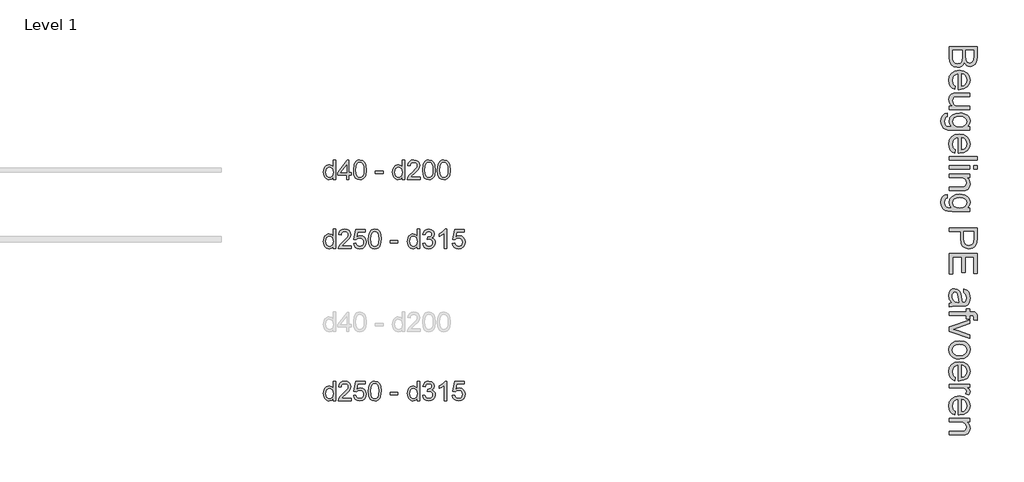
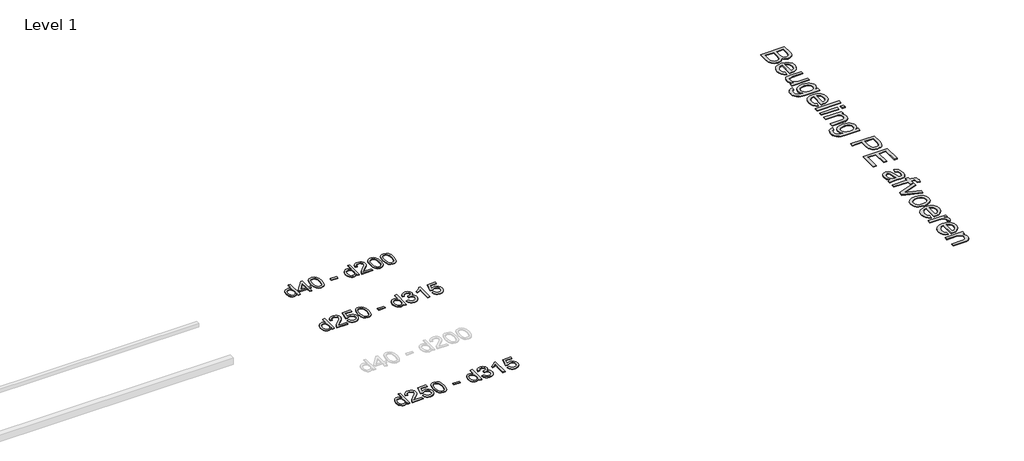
# One storey, part 5 of 5: 4 proxies.
"""IFC4 building model written with IfcOpenShell, lengths in millimetres."""

from ifc_helpers import new_model, si_unit, origin, origin_with_axes, place, context, project, spatial, polyline, outline, extrude, element, save

model = new_model("IFC4")

# Units and contexts
model_context = context("Model", 3, world=origin())
ifc_project = project(units=[si_unit("LENGTHUNIT", "METRE", prefix="MILLI")], contexts=[model_context])

# Site, building, storey
site = spatial("IfcSite", under=ifc_project)
building = spatial("IfcBuilding", under=site)
storey = spatial("IfcBuildingStorey", under=building, Name="Level 1", Elevation=0.0)

# Proxies
placement = place(None, origin())
element("IfcBuildingElementProxy", 1, Name="medium", ObjectType="medium", at=placement, inside=storey, context=model_context, shape_type="SweptSolid", body=[
    extrude(outline(polyline([(10569.1197638, 22888.4870681), (10770.0323841, 22888.4870681), (10770.0323841, 22811.8204603), (10768.5547248, 22790.7346906), (10764.1217467, 22774.2719713), (10756.6230854, 22761.6536189), (10745.9483762, 22752.1009497), (10733.3913374, 22746.0860791), (10720.2456875, 22744.0811222), (10708.1485012, 22745.767248), (10696.7748162, 22750.8256255), (10686.8236082, 22759.2930427), (10678.9938531, 22771.206288), (10671.5626368, 22756.9753862), (10660.2563968, 22746.4600925), (10645.8231598, 22739.9669753), (10629.0109527, 22737.8026029), (10602.0084142, 22743.7132402), (10582.7804486, 22758.3549436), (10572.5778546, 22780.2071342), (10569.1197638, 22812.4090715), (10569.1197638, 22888.4870681)]), holes=[polyline([(10594.2338414, 22863.3729905), (10594.2338414, 22811.8695112), (10595.21486, 22793.2301568), (10600.684039, 22777.4602819), (10611.8431262, 22767.0124333), (10628.765698, 22762.9166804), (10648.2879692, 22767.7236718), (10655.3451721, 22774.0205853), (10659.9375657, 22783.2973429), (10663.2975546, 22814.3220578), (10663.2975546, 22863.3729905), (10594.2338414, 22863.3729905)]), polyline([(10688.4116321, 22863.3729905), (10688.4116321, 22817.5103685), (10690.5698732, 22790.7285592), (10699.8650249, 22774.6153278), (10716.223511, 22769.1951998), (10732.6065225, 22774.2474458), (10742.2940817, 22788.717471), (10744.9183066, 22820.9929847), (10744.9183066, 22863.3729905), (10688.4116321, 22863.3729905)])]), origin_with_axes(), (0.0, 0.0, 1.0), 5.0),
    extrude(outline(polyline([(10613.0693995, 22603.1087417), (10609.9301398, 22578.4851735), (10591.3766245, 22587.3572609), (10577.5074733, 22601.5145864), (10568.8622464, 22620.6383188), (10565.9805041, 22644.409627), (10570.9530424, 22673.8769748), (10585.8706574, 22696.5507685), (10609.7645929, 22711.0085309), (10641.6660933, 22715.827785), (10674.6405828, 22710.9594799), (10699.3009392, 22696.3545647), (10714.6784066, 22673.9873394), (10719.8042291, 22645.8321041), (10714.6906693, 22618.5536541), (10699.3499901, 22596.7566459), (10674.7386847, 22582.4644304), (10641.8132461, 22577.7003586), (10635.0442174, 22577.8475113), (10635.0442174, 22690.7137075), (10616.2454474, 22686.3665686), (10602.4253471, 22676.2682078), (10593.927273, 22661.6939494), (10591.0945817, 22643.9191177), (10596.3430315, 22619.2955495), (10603.1488484, 22610.1475505), (10613.0693995, 22603.1087417)]), holes=[polyline([(10660.1582949, 22690.7137075), (10660.1582949, 22602.8144361), (10673.4265722, 22606.2112132), (10682.9179277, 22612.8698773), (10691.7470956, 22627.5115807), (10694.6901515, 22645.9302059), (10692.3418381, 22662.8589091), (10685.2968979, 22676.856819), (10674.3156204, 22686.5872978), (10660.1582949, 22690.7137075)])]), origin_with_axes(), (0.0, 0.0, 1.0), 5.0),
    extrude(outline(polyline([(10569.1197638, 22458.4084902), (10594.479096, 22458.4084902), (10582.0109621, 22467.4951755), (10573.1051521, 22478.0779143), (10567.7616661, 22490.1567064), (10565.9805041, 22503.7315521), (10570.9836993, 22527.3495761), (10583.540738, 22543.6344858), (10602.0329397, 22551.114753), (10625.3811836, 22552.586281), (10716.6649694, 22552.586281), (10716.6649694, 22527.4722035), (10637.2024584, 22527.4722035), (10611.5978715, 22525.9516246), (10603.0568779, 22522.2911987), (10596.5637607, 22516.0188107), (10591.0945817, 22497.3058799), (10596.686388, 22476.3366061), (10603.2898698, 22467.9795535), (10611.9167026, 22462.4797177), (10639.9002597, 22458.4084902), (10716.6649694, 22458.4084902), (10716.6649694, 22433.2944127), (10569.1197638, 22433.2944127), (10569.1197638, 22458.4084902)])), origin_with_axes(), (0.0, 0.0, 1.0), 5.0),
    extrude(outline(polyline([(10556.5627251, 22405.0410755), (10553.4234654, 22379.9269979), (10545.5753161, 22377.1556202), (10540.1797136, 22371.7845431), (10535.9858588, 22361.2263299), (10534.5879072, 22347.4062296), (10536.1697998, 22332.6664243), (10540.9154775, 22321.7035408), (10548.5183721, 22314.1006463), (10558.6719152, 22309.4408077), (10587.955322, 22307.724025), (10573.8286534, 22325.4068863), (10569.1197638, 22346.9647712), (10574.6012056, 22372.8575323), (10591.0455308, 22392.1652057), (10615.1540642, 22404.1765528), (10643.6281306, 22408.1803352), (10663.9045599, 22406.3838448), (10682.5500457, 22400.9943735), (10698.3505774, 22392.2019939), (10710.0921444, 22380.1967781), (10717.3762079, 22365.3895278), (10719.8042291, 22348.1910445), (10714.3105246, 22325.787031), (10697.8294112, 22307.724025), (10716.6649694, 22307.724025), (10716.6649694, 22282.6099475), (10589.2796972, 22282.6099475), (10559.8675317, 22284.3267301), (10540.4985446, 22289.4770781), (10527.6533316, 22298.3491655), (10517.8124882, 22311.2311667), (10511.5584943, 22327.8410388), (10509.4738297, 22347.8967389), (10512.4107543, 22371.263377), (10521.2215281, 22389.6636081), (10535.9306765, 22401.4664888), (10556.5627251, 22405.0410755)]), holes=[polyline([(10645.3449132, 22383.0662576), (10622.309369, 22380.3868504), (10606.4720491, 22372.3486288), (10597.2933933, 22360.2637053), (10594.2338414, 22345.4441923), (10597.2749992, 22330.7350438), (10606.3984727, 22318.5888066), (10622.0334575, 22310.4402204), (10644.6091492, 22307.724025), (10666.381632, 22310.5199282), (10682.0595364, 22318.9076377), (10691.5324977, 22331.2316845), (10694.6901515, 22345.8365997), (10691.5815487, 22360.1778662), (10682.2557401, 22372.201476), (10666.8108277, 22380.3500622), (10645.3449132, 22383.0662576)])]), origin_with_axes(), (0.0, 0.0, 1.0), 5.0),
    extrude(outline(polyline([(10613.0693995, 22141.6375669), (10609.9301398, 22117.0139987), (10591.3766245, 22125.8860862), (10577.5074733, 22140.0434116), (10568.8622464, 22159.167144), (10565.9805041, 22182.9384523), (10570.9530424, 22212.4058001), (10585.8706574, 22235.0795937), (10609.7645929, 22249.5373561), (10641.6660933, 22254.3566103), (10674.6405828, 22249.4883052), (10699.3009392, 22234.88339), (10714.6784066, 22212.5161647), (10719.8042291, 22184.3609293), (10714.6906693, 22157.0824794), (10699.3499901, 22135.2854712), (10674.7386847, 22120.9932556), (10641.8132461, 22116.2291838), (10635.0442174, 22116.3763366), (10635.0442174, 22229.2425327), (10616.2454474, 22224.8953938), (10602.4253471, 22214.797033), (10593.927273, 22200.2227747), (10591.0945817, 22182.4479429), (10596.3430315, 22157.8243747), (10603.1488484, 22148.6763758), (10613.0693995, 22141.6375669)]), holes=[polyline([(10660.1582949, 22229.2425327), (10660.1582949, 22141.3432613), (10673.4265722, 22144.7400384), (10682.9179277, 22151.3987025), (10691.7470956, 22166.0404059), (10694.6901515, 22184.4590312), (10692.3418381, 22201.3877343), (10685.2968979, 22215.3856442), (10674.3156204, 22225.116123), (10660.1582949, 22229.2425327)])]), origin_with_axes(), (0.0, 0.0, 1.0), 5.0),
    extrude(outline(polyline([(10569.1197638, 22091.1151063), (10770.0323841, 22091.1151063), (10770.0323841, 22066.0010287), (10569.1197638, 22066.0010287), (10569.1197638, 22091.1151063)])), origin_with_axes(), (0.0, 0.0, 1.0), 5.0),
    extrude(outline(polyline([(10569.1197638, 22028.3299124), (10716.6649694, 22028.3299124), (10716.6649694, 22003.2158349), (10569.1197638, 22003.2158349), (10569.1197638, 22028.3299124)])), origin_with_axes(), (0.0, 0.0, 1.0), 5.0),
    extrude(outline(polyline([(10744.9183066, 22028.3299124), (10770.0323841, 22028.3299124), (10770.0323841, 22003.2158349), (10744.9183066, 22003.2158349), (10744.9183066, 22028.3299124)])), origin_with_axes(), (0.0, 0.0, 1.0), 5.0),
    extrude(outline(polyline([(10569.1197638, 21965.5447186), (10716.6649694, 21965.5447186), (10716.6649694, 21940.430641), (10696.0635776, 21940.430641), (10706.4501126, 21931.7057064), (10713.8690662, 21921.2272009), (10718.3204383, 21908.9951246), (10719.8042291, 21895.0094774), (10715.0217631, 21871.2933514), (10702.4647244, 21855.1065436), (10683.9970482, 21847.5772255), (10659.7168365, 21846.2528503), (10569.1197638, 21846.2528503), (10569.1197638, 21871.3669278), (10656.3323222, 21871.3669278), (10678.5523947, 21874.2609328), (10690.300093, 21884.4880523), (10694.6901515, 21901.7294551), (10692.2253422, 21916.4386036), (10684.8309141, 21928.9772483), (10670.5448299, 21937.5672928), (10647.4050524, 21940.430641), (10569.1197638, 21940.430641), (10569.1197638, 21965.5447186)])), origin_with_axes(), (0.0, 0.0, 1.0), 5.0),
    extrude(outline(polyline([(10556.5627251, 21817.999513), (10553.4234654, 21792.8854355), (10545.5753161, 21790.1140578), (10540.1797136, 21784.7429807), (10535.9858588, 21774.1847674), (10534.5879072, 21760.3646671), (10536.1697998, 21745.6248619), (10540.9154775, 21734.6619784), (10548.5183721, 21727.0590838), (10558.6719152, 21722.3992452), (10587.955322, 21720.6824626), (10573.8286534, 21738.3653238), (10569.1197638, 21759.9232087), (10574.6012056, 21785.8159698), (10591.0455308, 21805.1236432), (10615.1540642, 21817.1349904), (10643.6281306, 21821.1387727), (10663.9045599, 21819.3422823), (10682.5500457, 21813.9528111), (10698.3505774, 21805.1604314), (10710.0921444, 21793.1552156), (10717.3762079, 21778.3479653), (10719.8042291, 21761.1494821), (10714.3105246, 21738.7454686), (10697.8294112, 21720.6824626), (10716.6649694, 21720.6824626), (10716.6649694, 21695.5683851), (10589.2796972, 21695.5683851), (10559.8675317, 21697.2851677), (10540.4985446, 21702.4355156), (10527.6533316, 21711.3076031), (10517.8124882, 21724.1896043), (10511.5584943, 21740.7994764), (10509.4738297, 21760.8551765), (10512.4107543, 21784.2218145), (10521.2215281, 21802.6220456), (10535.9306765, 21814.4249263), (10556.5627251, 21817.999513)]), holes=[polyline([(10645.3449132, 21796.0246952), (10622.309369, 21793.345288), (10606.4720491, 21785.3070664), (10597.2933933, 21773.2221429), (10594.2338414, 21758.4026298), (10597.2749992, 21743.6934814), (10606.3984727, 21731.5472442), (10622.0334575, 21723.398658), (10644.6091492, 21720.6824626), (10666.381632, 21723.4783658), (10682.0595364, 21731.8660752), (10691.5324977, 21744.1901221), (10694.6901515, 21758.7950373), (10691.5815487, 21773.1363037), (10682.2557401, 21785.1599136), (10666.8108277, 21793.3084998), (10645.3449132, 21796.0246952)])]), origin_with_axes(), (0.0, 0.0, 1.0), 5.0),
    extrude(outline(polyline([(10569.1197638, 21576.2765167), (10770.0323841, 21576.2765167), (10770.0323841, 21501.8172009), (10768.1193978, 21471.7980301), (10758.7261442, 21447.3951911), (10750.3997483, 21438.5231037), (10739.3019748, 21431.5762653), (10726.2115071, 21427.088105), (10711.9070289, 21425.5920515), (10688.2276911, 21429.6326221), (10668.4969535, 21441.7543338), (10660.728512, 21451.46182), (10655.1796252, 21464.4219961), (10650.7405158, 21500.1004183), (10650.7405158, 21551.1624392), (10569.1197638, 21551.1624392), (10569.1197638, 21576.2765167)]), holes=[polyline([(10675.8545934, 21551.1624392), (10675.8545934, 21498.6288903), (10678.1599872, 21476.3597669), (10685.0761687, 21461.6444871), (10696.1739422, 21453.4407186), (10711.0241121, 21450.7061291), (10722.3058266, 21452.3186785), (10731.8217076, 21457.1563267), (10738.9831437, 21464.6181998), (10743.201524, 21474.103424), (10744.9183066, 21499.2175015), (10744.9183066, 21551.1624392), (10675.8545934, 21551.1624392)])]), origin_with_axes(), (0.0, 0.0, 1.0), 5.0),
    extrude(outline(polyline([(10569.1197638, 21391.0601949), (10770.0323841, 21391.0601949), (10770.0323841, 21246.6542491), (10744.9183066, 21246.6542491), (10744.9183066, 21365.9461174), (10685.2723724, 21365.9461174), (10685.2723724, 21252.9327685), (10660.1582949, 21252.9327685), (10660.1582949, 21365.9461174), (10594.2338414, 21365.9461174), (10594.2338414, 21243.5149894), (10569.1197638, 21243.5149894), (10569.1197638, 21391.0601949)])), origin_with_axes(), (0.0, 0.0, 1.0), 5.0),
    extrude(outline(polyline([(10587.955322, 21036.3238497), (10570.9346483, 21060.6776378), (10565.9805041, 21087.5820744), (10568.9603483, 21108.5697422), (10577.8998808, 21124.0514428), (10591.4747264, 21133.5979806), (10608.36051, 21136.7801598), (10628.2261377, 21131.9731684), (10642.6471119, 21119.3425533), (10650.8876686, 21101.7577939), (10654.6645904, 21080.0282307), (10663.2975546, 21036.4710025), (10668.8893609, 21036.3238497), (10680.097499, 21038.0528951), (10687.4306135, 21043.2400312), (10692.875267, 21054.8405768), (10694.6901515, 21071.0028591), (10693.4822723, 21085.9633936), (10689.8586347, 21096.4112422), (10683.157051, 21103.5358902), (10672.7153337, 21108.5268226), (10675.8545934, 21133.6409002), (10700.3800597, 21122.7761186), (10708.6328791, 21113.517755), (10714.751983, 21100.8994026), (10719.8042291, 21067.7654975), (10715.3405942, 21037.3293938), (10704.1324561, 21020.1370419), (10687.087257, 21012.4360455), (10665.1124391, 21011.2097722), (10633.866995, 21011.2097722), (10590.2361904, 21009.9344479), (10569.1197638, 21004.9312528), (10569.1197638, 21030.0453303), (10587.955322, 21036.3238497)]), holes=[polyline([(10638.1834771, 21036.3238497), (10630.4824806, 21076.8399201), (10626.4112532, 21098.4468559), (10619.7893773, 21108.232517), (10610.1263436, 21111.6660823), (10602.6583391, 21109.7960155), (10596.5392352, 21104.1858151), (10592.4557451, 21094.9581084), (10591.0945817, 21082.2355227), (10592.5967665, 21068.7465162), (10597.1033209, 21056.8271396), (10611.6469225, 21040.444128), (10631.0710918, 21036.4710025), (10638.1834771, 21036.3238497)])]), origin_with_axes(), (0.0, 0.0, 1.0), 5.0),
    extrude(outline(polyline([(10569.1197638, 20858.8575752), (10716.6649694, 20910.753462), (10716.6649694, 20884.1678565), (10628.2751887, 20852.7262086), (10598.5503235, 20843.2593786), (10626.607457, 20833.9887523), (10716.6649694, 20802.3509008), (10716.6649694, 20775.7652952), (10569.1197638, 20827.0235199), (10569.1197638, 20858.8575752)])), origin_with_axes(), (0.0, 0.0, 1.0), 5.0),
    extrude(outline(polyline([(10569.1197638, 20970.3993962), (10691.5508918, 20970.3993962), (10691.5508918, 20992.374214), (10716.6649694, 20992.374214), (10716.6649694, 20970.3993962), (10731.527402, 20970.3993962), (10752.4721502, 20967.7506458), (10760.8230715, 20962.6983997), (10767.4326847, 20954.8993014), (10771.736904, 20943.9854689), (10773.1716438, 20929.5890202), (10770.4247916, 20906.6822346), (10746.8803439, 20910.3610545), (10748.0575663, 20924.8310797), (10743.888237, 20940.6500055), (10737.916286, 20944.1264903), (10728.3390914, 20945.2853186), (10716.6649694, 20945.2853186), (10716.6649694, 20917.0319814), (10691.5508918, 20917.0319814), (10691.5508918, 20945.2853186), (10569.1197638, 20945.2853186), (10569.1197638, 20970.3993962)])), origin_with_axes(), (0.0, 0.0, 1.0), 5.0),
    extrude(outline(polyline([(10642.8923666, 20760.0689968), (10678.4665555, 20754.636606), (10692.2897215, 20747.8461175), (10703.4702685, 20738.3394336), (10715.7207389, 20718.2040257), (10719.8042291, 20694.0954923), (10714.8316908, 20667.7122219), (10699.9140759, 20646.6387149), (10676.2286067, 20632.824746), (10644.9525058, 20628.2200897), (10619.5809108, 20630.2557034), (10600.2671061, 20636.3625445), (10585.8032123, 20646.3628034), (10574.9813503, 20660.0786705), (10568.2307157, 20676.3697115), (10565.9805041, 20694.0954923), (10570.9346483, 20720.7975938), (10585.797081, 20741.8465753), (10609.9791908, 20755.5133914), (10642.8923666, 20760.0689968)]), holes=[polyline([(10642.9414175, 20734.9549192), (10620.2124416, 20732.0486515), (10604.0195024, 20723.3298482), (10594.3258119, 20710.2087237), (10591.0945817, 20694.0954923), (10594.344206, 20678.0558373), (10604.0930788, 20664.9592383), (10620.5006158, 20656.240435), (10643.7262325, 20653.3341672), (10665.7930208, 20656.2588291), (10681.7652308, 20665.0328147), (10691.4589213, 20678.1478078), (10694.6901515, 20694.0954923), (10691.4711841, 20710.2087237), (10681.8142817, 20723.3298482), (10665.6581307, 20732.0486515), (10642.9414175, 20734.9549192)])]), origin_with_axes(), (0.0, 0.0, 1.0), 5.0),
    extrude(outline(polyline([(10613.0693995, 20496.6654882), (10609.9301398, 20472.04192), (10591.3766245, 20480.9140075), (10577.5074733, 20495.0713329), (10568.8622464, 20514.1950653), (10565.9805041, 20537.9663736), (10570.9530424, 20567.4337214), (10585.8706574, 20590.107515), (10609.7645929, 20604.5652774), (10641.6660933, 20609.3845316), (10674.6405828, 20604.5162265), (10699.3009392, 20589.9113113), (10714.6784066, 20567.544086), (10719.8042291, 20539.3888506), (10714.6906693, 20512.1104007), (10699.3499901, 20490.3133925), (10674.7386847, 20476.0211769), (10641.8132461, 20471.2571051), (10635.0442174, 20471.4042579), (10635.0442174, 20584.270454), (10616.2454474, 20579.9233151), (10602.4253471, 20569.8249543), (10593.927273, 20555.250696), (10591.0945817, 20537.4758642), (10596.3430315, 20512.852296), (10603.1488484, 20503.7042971), (10613.0693995, 20496.6654882)]), holes=[polyline([(10660.1582949, 20584.270454), (10660.1582949, 20496.3711826), (10673.4265722, 20499.7679597), (10682.9179277, 20506.4266238), (10691.7470956, 20521.0683272), (10694.6901515, 20539.4869525), (10692.3418381, 20556.4156556), (10685.2968979, 20570.4135655), (10674.3156204, 20580.1440443), (10660.1582949, 20584.270454)])]), origin_with_axes(), (0.0, 0.0, 1.0), 5.0),
    extrude(outline(polyline([(10569.1197638, 20446.1430276), (10716.6649694, 20446.1430276), (10716.6649694, 20424.1682097), (10694.8373043, 20424.1682097), (10714.9481867, 20408.5700131), (10719.8042291, 20392.8737147), (10717.8667172, 20380.3657268), (10712.0541817, 20367.6615353), (10689.5398036, 20376.0492448), (10694.6901515, 20393.7075805), (10689.7360073, 20407.9078255), (10676.0017462, 20416.9577226), (10646.6692884, 20421.02895), (10569.1197638, 20421.02895), (10569.1197638, 20446.1430276)])), origin_with_axes(), (0.0, 0.0, 1.0), 5.0),
    extrude(outline(polyline([(10613.0693995, 20248.6639726), (10609.9301398, 20224.0404043), (10591.3766245, 20232.9124918), (10577.5074733, 20247.0698172), (10568.8622464, 20266.1935496), (10565.9805041, 20289.9648579), (10570.9530424, 20319.4322057), (10585.8706574, 20342.1059993), (10609.7645929, 20356.5637617), (10641.6660933, 20361.3830159), (10674.6405828, 20356.5147108), (10699.3009392, 20341.9097956), (10714.6784066, 20319.5425703), (10719.8042291, 20291.3873349), (10714.6906693, 20264.108885), (10699.3499901, 20242.3118768), (10674.7386847, 20228.0196613), (10641.8132461, 20223.2555894), (10635.0442174, 20223.4027422), (10635.0442174, 20336.2689383), (10616.2454474, 20331.9217994), (10602.4253471, 20321.8234387), (10593.927273, 20307.2491803), (10591.0945817, 20289.4743486), (10596.3430315, 20264.8507803), (10603.1488484, 20255.7027814), (10613.0693995, 20248.6639726)]), holes=[polyline([(10660.1582949, 20336.2689383), (10660.1582949, 20248.369667), (10673.4265722, 20251.766444), (10682.9179277, 20258.4251082), (10691.7470956, 20273.0668116), (10694.6901515, 20291.4854368), (10692.3418381, 20308.4141399), (10685.2968979, 20322.4120499), (10674.3156204, 20332.1425286), (10660.1582949, 20336.2689383)])]), origin_with_axes(), (0.0, 0.0, 1.0), 5.0),
    extrude(outline(polyline([(10569.1197638, 20198.1415119), (10716.6649694, 20198.1415119), (10716.6649694, 20173.0274343), (10696.0635776, 20173.0274343), (10706.4501126, 20164.3024997), (10713.8690662, 20153.8239942), (10718.3204383, 20141.5919179), (10719.8042291, 20127.6062707), (10715.0217631, 20103.8901447), (10702.4647244, 20087.7033369), (10683.9970482, 20080.1740188), (10659.7168365, 20078.8496436), (10569.1197638, 20078.8496436), (10569.1197638, 20103.9637211), (10656.3323222, 20103.9637211), (10678.5523947, 20106.8577261), (10690.300093, 20117.0848456), (10694.6901515, 20134.3262485), (10692.2253422, 20149.0353969), (10684.8309141, 20161.5740416), (10670.5448299, 20170.1640861), (10647.4050524, 20173.0274343), (10569.1197638, 20173.0274343), (10569.1197638, 20198.1415119)])), origin_with_axes(), (0.0, 0.0, 1.0), 5.0),
])
element("IfcBuildingElementProxy", 2, Name="small", ObjectType="small", at=placement, inside=storey, context=model_context, shape_type="SweptSolid", body=[
    extrude(outline(polyline([(6118.2796977, 21927.2930681), (6118.2796977, 21943.8771884), (6106.6484953, 21929.7909868), (6090.5708258, 21925.0955863), (6079.2057247, 21926.7952011), (6068.8020219, 21931.8940456), (6059.9949269, 21940.0358873), (6053.4196494, 21950.8644938), (6047.9602806, 21978.8308831), (6052.9904538, 22006.8144402), (6059.2738782, 22017.91344), (6068.0638054, 22026.0767414), (6078.6949819, 22031.0983307), (6090.5021545, 22032.7721937), (6106.7085827, 22027.9823702), (6118.2796977, 22015.535696), (6118.2796977, 22067.9319023), (6135.859552, 22067.9319023), (6135.859552, 21927.2930681), (6118.2796977, 21927.2930681)]), holes=[polyline([(6065.5401349, 21978.8995544), (6067.5230188, 21962.9978551), (6073.4716707, 21951.6885495), (6082.1156713, 21944.9287178), (6092.1846015, 21942.6754406), (6102.2492398, 21944.8257108), (6110.6743506, 21951.2765216), (6116.3783609, 21962.1480477), (6118.2796977, 21977.5604639), (6116.3440253, 21994.4106856), (6110.537008, 22006.0933914), (6101.8972993, 22012.9176025), (6091.4635528, 22015.1923395), (6081.2916156, 22013.0077335), (6072.9566359, 22006.4539158), (6067.3942601, 21995.1961136), (6065.5401349, 21978.8995544)])]), origin_with_axes(), (0.0, 0.0, 1.0), 5.0),
    extrude(outline(polyline([(6214.9688962, 21927.2930681), (6214.9688962, 21960.2552949), (6151.2419245, 21960.2552949), (6151.2419245, 21977.8351491), (6219.3638598, 22065.7344205), (6232.5487505, 22065.7344205), (6232.5487505, 21977.8351491), (6250.1286048, 21977.8351491), (6250.1286048, 21960.2552949), (6232.5487505, 21960.2552949), (6232.5487505, 21927.2930681), (6214.9688962, 21927.2930681)]), holes=[polyline([(6214.9688962, 21977.8351491), (6214.9688962, 22032.154152), (6172.8733858, 21977.8351491), (6214.9688962, 21977.8351491)])]), origin_with_axes(), (0.0, 0.0, 1.0), 5.0),
    extrude(outline(polyline([(6265.5109773, 21996.4794086), (6270.678493, 22036.9439756), (6277.0992601, 22050.6138574), (6286.0265299, 22060.2750517), (6297.5246816, 22066.0176896), (6311.6580947, 22067.9319023), (6332.1908152, 22063.3995961), (6346.3714398, 22050.3348802), (6354.6119965, 22029.5274745), (6357.8052122, 21996.4794086), (6352.6891999, 21956.18652), (6346.3070605, 21942.5037623), (6337.3926666, 21932.8039404), (6325.8687631, 21927.0226748), (6311.6580947, 21925.0955863), (6293.3915274, 21928.4433125), (6279.5199236, 21938.4864909), (6269.0132139, 21962.2725145), (6265.5109773, 21996.4794086)]), holes=[polyline([(6283.0908315, 21996.5137443), (6285.1509707, 21968.8606679), (6291.3313882, 21952.8559617), (6300.5333432, 21945.2205708), (6311.6580947, 21942.6754406), (6322.7828463, 21945.2291548), (6331.9848013, 21952.8902973), (6338.1652188, 21968.9035874), (6340.2253579, 21996.5137443), (6338.2338901, 22023.544487), (6332.2594865, 22039.67366), (6323.0746993, 22047.682451), (6311.4520808, 22050.352048), (6300.4475041, 22048.0000558), (6291.6060735, 22040.9440791), (6285.219642, 22023.8105883), (6283.0908315, 21996.5137443)])]), origin_with_axes(), (0.0, 0.0, 1.0), 5.0),
    extrude(outline(polyline([(6423.7296658, 21969.045222), (6423.7296658, 21986.6250763), (6478.6667104, 21986.6250763), (6478.6667104, 21969.045222), (6423.7296658, 21969.045222)])), origin_with_axes(), (0.0, 0.0, 1.0), 5.0),
    extrude(outline(polyline([(6617.1080628, 21927.2930681), (6617.1080628, 21943.8771884), (6605.4768604, 21929.7909868), (6589.3991909, 21925.0955863), (6578.0340898, 21926.7952011), (6567.630387, 21931.8940456), (6558.823292, 21940.0358873), (6552.2480145, 21950.8644938), (6546.7886457, 21978.8308831), (6551.8188188, 22006.8144402), (6558.1022433, 22017.91344), (6566.8921705, 22026.0767414), (6577.523347, 22031.0983307), (6589.3305196, 22032.7721937), (6605.5369478, 22027.9823702), (6617.1080628, 22015.535696), (6617.1080628, 22067.9319023), (6634.6879171, 22067.9319023), (6634.6879171, 21927.2930681), (6617.1080628, 21927.2930681)]), holes=[polyline([(6564.3685, 21978.8995544), (6566.3513839, 21962.9978551), (6572.3000358, 21951.6885495), (6580.9440364, 21944.9287178), (6591.0129666, 21942.6754406), (6601.0776049, 21944.8257108), (6609.5027157, 21951.2765216), (6615.206726, 21962.1480477), (6617.1080628, 21977.5604639), (6615.1723904, 21994.4106856), (6609.3653731, 22006.0933914), (6600.7256644, 22012.9176025), (6590.2919179, 22015.1923395), (6580.1199807, 22013.0077335), (6571.785001, 22006.4539158), (6566.2226252, 21995.1961136), (6564.3685, 21978.8995544)])]), origin_with_axes(), (0.0, 0.0, 1.0), 5.0),
    extrude(outline(polyline([(6746.7594881, 21944.8729224), (6746.7594881, 21927.2930681), (6654.4652531, 21927.2930681), (6656.353714, 21939.4135536), (6667.0321021, 21958.0749809), (6689.0412556, 21978.4531909), (6719.3939727, 22007.7415028), (6725.0851072, 22017.8361847), (6726.982152, 22027.6561815), (6725.1924061, 22036.4589845), (6719.8231684, 22043.7767705), (6711.5697358, 22048.7082286), (6701.1274054, 22050.352048), (6690.1614563, 22048.7468562), (6681.6419224, 22043.9312809), (6676.143926, 22036.2830142), (6674.2425892, 22026.1797484), (6656.6627349, 22028.3772302), (6660.9246478, 22045.3819623), (6670.1394787, 22057.8028847), (6683.8265283, 22065.3996479), (6701.5050976, 22067.9319023), (6719.3124256, 22065.1163788), (6732.9737235, 22056.6698081), (6741.6649356, 22044.0514557), (6744.5620063, 22028.7205867), (6741.4374619, 22012.0506272), (6731.0509269, 21994.8141295), (6705.8657255, 21970.727669), (6685.642026, 21953.8173599), (6677.7104901, 21944.8729224), (6746.7594881, 21944.8729224)])), origin_with_axes(), (0.0, 0.0, 1.0), 5.0),
    extrude(outline(polyline([(6764.3393424, 21996.4794086), (6769.5068581, 22036.9439756), (6775.9276252, 22050.6138574), (6784.854895, 22060.2750517), (6796.3530467, 22066.0176896), (6810.4864598, 22067.9319023), (6831.0191803, 22063.3995961), (6845.1998049, 22050.3348802), (6853.4403616, 22029.5274745), (6856.6335773, 21996.4794086), (6851.517565, 21956.18652), (6845.1354256, 21942.5037623), (6836.2210317, 21932.8039404), (6824.6971282, 21927.0226748), (6810.4864598, 21925.0955863), (6792.2198925, 21928.4433125), (6778.3482887, 21938.4864909), (6767.841579, 21962.2725145), (6764.3393424, 21996.4794086)]), holes=[polyline([(6781.9191966, 21996.5137443), (6783.9793358, 21968.8606679), (6790.1597533, 21952.8559617), (6799.3617083, 21945.2205708), (6810.4864598, 21942.6754406), (6821.6112114, 21945.2291548), (6830.8131663, 21952.8902973), (6836.9935839, 21968.9035874), (6839.053723, 21996.5137443), (6837.0622552, 22023.544487), (6831.0878516, 22039.67366), (6821.9030644, 22047.682451), (6810.2804459, 22050.352048), (6799.2758692, 22048.0000558), (6790.4344386, 22040.9440791), (6784.0480071, 22023.8105883), (6781.9191966, 21996.5137443)])]), origin_with_axes(), (0.0, 0.0, 1.0), 5.0),
    extrude(outline(polyline([(6872.0159498, 21996.4794086), (6877.1834656, 22036.9439756), (6883.6042326, 22050.6138574), (6892.5315024, 22060.2750517), (6904.0296542, 22066.0176896), (6918.1630673, 22067.9319023), (6938.6957877, 22063.3995961), (6952.8764123, 22050.3348802), (6961.116969, 22029.5274745), (6964.3101848, 21996.4794086), (6959.1941725, 21956.18652), (6952.812033, 21942.5037623), (6943.8976391, 21932.8039404), (6932.3737356, 21927.0226748), (6918.1630673, 21925.0955863), (6899.8964999, 21928.4433125), (6886.0248962, 21938.4864909), (6875.5181864, 21962.2725145), (6872.0159498, 21996.4794086)]), holes=[polyline([(6889.5958041, 21996.5137443), (6891.6559433, 21968.8606679), (6897.8363608, 21952.8559617), (6907.0383157, 21945.2205708), (6918.1630673, 21942.6754406), (6929.2878188, 21945.2291548), (6938.4897738, 21952.8902973), (6944.6701913, 21968.9035874), (6946.7303305, 21996.5137443), (6944.7388626, 22023.544487), (6938.764459, 22039.67366), (6929.5796719, 22047.682451), (6917.9570534, 22050.352048), (6906.9524766, 22048.0000558), (6898.111046, 22040.9440791), (6891.7246146, 22023.8105883), (6889.5958041, 21996.5137443)])]), origin_with_axes(), (0.0, 0.0, 1.0), 5.0),
])
element("IfcBuildingElementProxy", 3, Name="small", ObjectType="small", at=placement, inside=storey, context=model_context, shape_type="SweptSolid", body=[
    extrude(outline(polyline([(6118.2796977, 21427.2930681), (6118.2796977, 21443.8771884), (6106.6484953, 21429.7909868), (6090.5708258, 21425.0955863), (6079.2057247, 21426.7952011), (6068.8020219, 21431.8940456), (6059.9949269, 21440.0358873), (6053.4196494, 21450.8644938), (6047.9602806, 21478.8308831), (6052.9904538, 21506.8144402), (6059.2738782, 21517.91344), (6068.0638054, 21526.0767414), (6078.6949819, 21531.0983307), (6090.5021545, 21532.7721937), (6106.7085827, 21527.9823702), (6118.2796977, 21515.535696), (6118.2796977, 21567.9319023), (6135.859552, 21567.9319023), (6135.859552, 21427.2930681), (6118.2796977, 21427.2930681)]), holes=[polyline([(6065.5401349, 21478.8995544), (6067.5230188, 21462.9978551), (6073.4716707, 21451.6885495), (6082.1156713, 21444.9287178), (6092.1846015, 21442.6754406), (6102.2492398, 21444.8257108), (6110.6743506, 21451.2765216), (6116.3783609, 21462.1480477), (6118.2796977, 21477.5604639), (6116.3440253, 21494.4106856), (6110.537008, 21506.0933914), (6101.8972993, 21512.9176025), (6091.4635528, 21515.1923395), (6081.2916156, 21513.0077335), (6072.9566359, 21506.4539158), (6067.3942601, 21495.1961136), (6065.5401349, 21478.8995544)])]), origin_with_axes(), (0.0, 0.0, 1.0), 5.0),
    extrude(outline(polyline([(6247.931123, 21444.8729224), (6247.931123, 21427.2930681), (6155.636888, 21427.2930681), (6157.525349, 21439.4135536), (6168.203737, 21458.0749809), (6190.2128905, 21478.4531909), (6220.5656076, 21507.7415028), (6226.2567421, 21517.8361847), (6228.1537869, 21527.6561815), (6226.364041, 21536.4589845), (6220.9948033, 21543.7767705), (6212.7413707, 21548.7082286), (6202.2990403, 21550.352048), (6191.3330912, 21548.7468562), (6182.8135573, 21543.9312809), (6177.3155609, 21536.2830142), (6175.4142241, 21526.1797484), (6157.8343698, 21528.3772302), (6162.0962827, 21545.3819623), (6171.3111136, 21557.8028847), (6184.9981632, 21565.3996479), (6202.6767325, 21567.9319023), (6220.4840605, 21565.1163788), (6234.1453584, 21556.6698081), (6242.8365705, 21544.0514557), (6245.7336412, 21528.7205867), (6242.6090968, 21512.0506272), (6232.2225618, 21494.8141295), (6207.0373604, 21470.727669), (6186.8136609, 21453.8173599), (6178.882125, 21444.8729224), (6247.931123, 21444.8729224)])), origin_with_axes(), (0.0, 0.0, 1.0), 5.0),
    extrude(outline(polyline([(6265.5109773, 21464.6502584), (6283.0908315, 21466.8477402), (6286.3183829, 21456.2938189), (6291.94943, 21448.7356833), (6299.958221, 21444.1905013), (6310.3190043, 21442.6754406), (6322.9201889, 21444.7827913), (6332.3624934, 21451.1048434), (6338.2596418, 21460.9119642), (6340.2253579, 21473.4745212), (6338.3841086, 21485.3031536), (6332.8603604, 21494.3505982), (6323.6111939, 21500.0932361), (6310.5936895, 21502.0074488), (6295.1598135, 21498.9515756), (6285.2883133, 21491.0200398), (6267.7084591, 21493.2175216), (6283.0908315, 21565.7344205), (6351.2127669, 21565.7344205), (6351.2127669, 21548.1545662), (6297.3057918, 21548.1545662), (6289.7862839, 21509.4239498), (6302.3445489, 21517.0464647), (6315.5036879, 21519.587303), (6331.9290058, 21516.4370069), (6345.564552, 21506.9861184), (6354.7450472, 21492.582312), (6357.8052122, 21474.5732621), (6355.0497761, 21456.9934078), (6346.7834676, 21441.9543919), (6330.9547317, 21429.3102877), (6310.250333, 21425.0955863), (6292.9837915, 21427.8038109), (6279.2280706, 21435.9284848), (6269.7986419, 21448.5253774), (6265.5109773, 21464.6502584)])), origin_with_axes(), (0.0, 0.0, 1.0), 5.0),
    extrude(outline(polyline([(6373.1875847, 21496.4794086), (6378.3551005, 21536.9439756), (6384.7758676, 21550.6138574), (6393.7031373, 21560.2750517), (6405.2012891, 21566.0176896), (6419.3347022, 21567.9319023), (6439.8674226, 21563.3995961), (6454.0480473, 21550.3348802), (6462.2886039, 21529.5274745), (6465.4818197, 21496.4794086), (6460.3658074, 21456.18652), (6453.9836679, 21442.5037623), (6445.069274, 21432.8039404), (6433.5453705, 21427.0226748), (6419.3347022, 21425.0955863), (6401.0681349, 21428.4433125), (6387.1965311, 21438.4864909), (6376.6898213, 21462.2725145), (6373.1875847, 21496.4794086)]), holes=[polyline([(6390.767439, 21496.5137443), (6392.8275782, 21468.8606679), (6399.0079957, 21452.8559617), (6408.2099507, 21445.2205708), (6419.3347022, 21442.6754406), (6430.4594537, 21445.2291548), (6439.6614087, 21452.8902973), (6445.8418262, 21468.9035874), (6447.9019654, 21496.5137443), (6445.9104975, 21523.544487), (6439.9360939, 21539.67366), (6430.7513068, 21547.682451), (6419.1286883, 21550.352048), (6408.1241115, 21548.0000558), (6399.2826809, 21540.9440791), (6392.8962495, 21523.8105883), (6390.767439, 21496.5137443)])]), origin_with_axes(), (0.0, 0.0, 1.0), 5.0),
    extrude(outline(polyline([(6531.4062732, 21469.045222), (6531.4062732, 21486.6250763), (6586.3433178, 21486.6250763), (6586.3433178, 21469.045222), (6531.4062732, 21469.045222)])), origin_with_axes(), (0.0, 0.0, 1.0), 5.0),
    extrude(outline(polyline([(6724.7846702, 21427.2930681), (6724.7846702, 21443.8771884), (6713.1534678, 21429.7909868), (6697.0757984, 21425.0955863), (6685.7106973, 21426.7952011), (6675.3069944, 21431.8940456), (6666.4998995, 21440.0358873), (6659.9246219, 21450.8644938), (6654.4652531, 21478.8308831), (6659.4954263, 21506.8144402), (6665.7788508, 21517.91344), (6674.5687779, 21526.0767414), (6685.1999544, 21531.0983307), (6697.0071271, 21532.7721937), (6713.2135552, 21527.9823702), (6724.7846702, 21515.535696), (6724.7846702, 21567.9319023), (6742.3645245, 21567.9319023), (6742.3645245, 21427.2930681), (6724.7846702, 21427.2930681)]), holes=[polyline([(6672.0451074, 21478.8995544), (6674.0279914, 21462.9978551), (6679.9766432, 21451.6885495), (6688.6206438, 21444.9287178), (6698.689574, 21442.6754406), (6708.7542123, 21444.8257108), (6717.1793231, 21451.2765216), (6722.8833335, 21462.1480477), (6724.7846702, 21477.5604639), (6722.8489978, 21494.4106856), (6717.0419805, 21506.0933914), (6708.4022719, 21512.9176025), (6697.9685253, 21515.1923395), (6687.7965882, 21513.0077335), (6679.4616084, 21506.4539158), (6673.8992327, 21495.1961136), (6672.0451074, 21478.8995544)])]), origin_with_axes(), (0.0, 0.0, 1.0), 5.0),
    extrude(outline(polyline([(6764.3393424, 21464.6502584), (6781.9191966, 21466.8477402), (6785.8549208, 21455.8002439), (6791.6190186, 21448.3408233), (6799.494759, 21444.0917863), (6809.7654111, 21442.6754406), (6821.8172253, 21444.6239889), (6831.1221872, 21450.4696338), (6837.0708391, 21459.1908896), (6839.053723, 21469.7662707), (6837.0880069, 21479.8051572), (6831.1908585, 21487.9469989), (6822.2635888, 21493.3419884), (6811.2075085, 21495.1403182), (6798.8810092, 21493.2175216), (6800.8381414, 21510.7973759), (6803.6536649, 21510.591362), (6823.6026792, 21515.638703), (6830.2466281, 21522.0423022), (6832.4612777, 21531.1584181), (6830.8560859, 21538.7508893), (6826.0405106, 21544.909847), (6809.4907259, 21550.352048), (6792.7349273, 21544.8583436), (6787.2326389, 21537.991213), (6784.1166784, 21528.3772302), (6766.5368241, 21530.574712), (6771.7129238, 21546.3605284), (6780.9234627, 21558.1462412), (6793.5246473, 21565.485487), (6808.8726841, 21567.9319023), (6830.0749498, 21563.1077431), (6844.9079519, 21549.9228524), (6850.041132, 21532.1884876), (6845.1654692, 21515.9820595), (6830.744495, 21504.3422732), (6841.7490718, 21499.8958061), (6849.9037893, 21492.3247946), (6854.9511303, 21482.0412666), (6856.6335773, 21469.4572498), (6853.2686833, 21452.323759), (6843.1740014, 21438.0057918), (6827.9375554, 21428.3231377), (6809.1473694, 21425.0955863), (6792.1512212, 21427.8510224), (6778.3139531, 21436.1173309), (6768.6913864, 21448.761435), (6764.3393424, 21464.6502584)])), origin_with_axes(), (0.0, 0.0, 1.0), 5.0),
    extrude(outline(polyline([(6937.9404033, 21427.2930681), (6920.3605491, 21427.2930681), (6920.3605491, 21536.8924721), (6903.7077574, 21525.029504), (6885.2008405, 21516.1537377), (6885.2008405, 21532.7721937), (6910.969748, 21549.2189715), (6926.6096379, 21567.9319023), (6937.9404033, 21567.9319023), (6937.9404033, 21427.2930681)])), origin_with_axes(), (0.0, 0.0, 1.0), 5.0),
    extrude(outline(polyline([(6979.6925572, 21464.6502584), (6997.2724115, 21466.8477402), (7000.4999629, 21456.2938189), (7006.13101, 21448.7356833), (7014.139801, 21444.1905013), (7024.5005843, 21442.6754406), (7037.1017689, 21444.7827913), (7046.5440734, 21451.1048434), (7052.4412218, 21460.9119642), (7054.4069379, 21473.4745212), (7052.5656885, 21485.3031536), (7047.0419404, 21494.3505982), (7037.7927739, 21500.0932361), (7024.7752695, 21502.0074488), (7009.3413935, 21498.9515756), (6999.4698933, 21491.0200398), (6981.890039, 21493.2175216), (6997.2724115, 21565.7344205), (7065.3943468, 21565.7344205), (7065.3943468, 21548.1545662), (7011.4873718, 21548.1545662), (7003.9678638, 21509.4239498), (7016.5261289, 21517.0464647), (7029.6852678, 21519.587303), (7046.1105858, 21516.4370069), (7059.7461319, 21506.9861184), (7068.9266271, 21492.582312), (7071.9867922, 21474.5732621), (7069.231356, 21456.9934078), (7060.9650476, 21441.9543919), (7045.1363116, 21429.3102877), (7024.4319129, 21425.0955863), (7007.1653715, 21427.8038109), (6993.4096506, 21435.9284848), (6983.9802219, 21448.5253774), (6979.6925572, 21464.6502584)])), origin_with_axes(), (0.0, 0.0, 1.0), 5.0),
])
element("IfcBuildingElementProxy", 4, Name="small", ObjectType="small", at=placement, inside=storey, context=model_context, shape_type="SweptSolid", body=[
    extrude(outline(polyline([(6118.2796977, 20327.2930681), (6118.2796977, 20343.8771884), (6106.6484953, 20329.7909868), (6090.5708258, 20325.0955863), (6079.2057247, 20326.7952011), (6068.8020219, 20331.8940456), (6059.9949269, 20340.0358873), (6053.4196494, 20350.8644938), (6047.9602806, 20378.8308831), (6052.9904538, 20406.8144402), (6059.2738782, 20417.91344), (6068.0638054, 20426.0767414), (6078.6949819, 20431.0983307), (6090.5021545, 20432.7721937), (6106.7085827, 20427.9823702), (6118.2796977, 20415.535696), (6118.2796977, 20467.9319023), (6135.859552, 20467.9319023), (6135.859552, 20327.2930681), (6118.2796977, 20327.2930681)]), holes=[polyline([(6065.5401349, 20378.8995544), (6067.5230188, 20362.9978551), (6073.4716707, 20351.6885495), (6082.1156713, 20344.9287178), (6092.1846015, 20342.6754406), (6102.2492398, 20344.8257108), (6110.6743506, 20351.2765216), (6116.3783609, 20362.1480477), (6118.2796977, 20377.5604639), (6116.3440253, 20394.4106856), (6110.537008, 20406.0933914), (6101.8972993, 20412.9176025), (6091.4635528, 20415.1923395), (6081.2916156, 20413.0077335), (6072.9566359, 20406.4539158), (6067.3942601, 20395.1961136), (6065.5401349, 20378.8995544)])]), origin_with_axes(), (0.0, 0.0, 1.0), 5.0),
    extrude(outline(polyline([(6247.931123, 20344.8729224), (6247.931123, 20327.2930681), (6155.636888, 20327.2930681), (6157.525349, 20339.4135536), (6168.203737, 20358.0749809), (6190.2128905, 20378.4531909), (6220.5656076, 20407.7415028), (6226.2567421, 20417.8361847), (6228.1537869, 20427.6561815), (6226.364041, 20436.4589845), (6220.9948033, 20443.7767705), (6212.7413707, 20448.7082286), (6202.2990403, 20450.352048), (6191.3330912, 20448.7468562), (6182.8135573, 20443.9312809), (6177.3155609, 20436.2830142), (6175.4142241, 20426.1797484), (6157.8343698, 20428.3772302), (6162.0962827, 20445.3819623), (6171.3111136, 20457.8028847), (6184.9981632, 20465.3996479), (6202.6767325, 20467.9319023), (6220.4840605, 20465.1163788), (6234.1453584, 20456.6698081), (6242.8365705, 20444.0514557), (6245.7336412, 20428.7205867), (6242.6090968, 20412.0506272), (6232.2225618, 20394.8141295), (6207.0373604, 20370.727669), (6186.8136609, 20353.8173599), (6178.882125, 20344.8729224), (6247.931123, 20344.8729224)])), origin_with_axes(), (0.0, 0.0, 1.0), 5.0),
    extrude(outline(polyline([(6265.5109773, 20364.6502584), (6283.0908315, 20366.8477402), (6286.3183829, 20356.2938189), (6291.94943, 20348.7356833), (6299.958221, 20344.1905013), (6310.3190043, 20342.6754406), (6322.9201889, 20344.7827913), (6332.3624934, 20351.1048434), (6338.2596418, 20360.9119642), (6340.2253579, 20373.4745212), (6338.3841086, 20385.3031536), (6332.8603604, 20394.3505982), (6323.6111939, 20400.0932361), (6310.5936895, 20402.0074488), (6295.1598135, 20398.9515756), (6285.2883133, 20391.0200398), (6267.7084591, 20393.2175216), (6283.0908315, 20465.7344205), (6351.2127669, 20465.7344205), (6351.2127669, 20448.1545662), (6297.3057918, 20448.1545662), (6289.7862839, 20409.4239498), (6302.3445489, 20417.0464647), (6315.5036879, 20419.587303), (6331.9290058, 20416.4370069), (6345.564552, 20406.9861184), (6354.7450472, 20392.582312), (6357.8052122, 20374.5732621), (6355.0497761, 20356.9934078), (6346.7834676, 20341.9543919), (6330.9547317, 20329.3102877), (6310.250333, 20325.0955863), (6292.9837915, 20327.8038109), (6279.2280706, 20335.9284848), (6269.7986419, 20348.5253774), (6265.5109773, 20364.6502584)])), origin_with_axes(), (0.0, 0.0, 1.0), 5.0),
    extrude(outline(polyline([(6373.1875847, 20396.4794086), (6378.3551005, 20436.9439756), (6384.7758676, 20450.6138574), (6393.7031373, 20460.2750517), (6405.2012891, 20466.0176896), (6419.3347022, 20467.9319023), (6439.8674226, 20463.3995961), (6454.0480473, 20450.3348802), (6462.2886039, 20429.5274745), (6465.4818197, 20396.4794086), (6460.3658074, 20356.18652), (6453.9836679, 20342.5037623), (6445.069274, 20332.8039404), (6433.5453705, 20327.0226748), (6419.3347022, 20325.0955863), (6401.0681349, 20328.4433125), (6387.1965311, 20338.4864909), (6376.6898213, 20362.2725145), (6373.1875847, 20396.4794086)]), holes=[polyline([(6390.767439, 20396.5137443), (6392.8275782, 20368.8606679), (6399.0079957, 20352.8559617), (6408.2099507, 20345.2205708), (6419.3347022, 20342.6754406), (6430.4594537, 20345.2291548), (6439.6614087, 20352.8902973), (6445.8418262, 20368.9035874), (6447.9019654, 20396.5137443), (6445.9104975, 20423.544487), (6439.9360939, 20439.67366), (6430.7513068, 20447.682451), (6419.1286883, 20450.352048), (6408.1241115, 20448.0000558), (6399.2826809, 20440.9440791), (6392.8962495, 20423.8105883), (6390.767439, 20396.5137443)])]), origin_with_axes(), (0.0, 0.0, 1.0), 5.0),
    extrude(outline(polyline([(6531.4062732, 20369.045222), (6531.4062732, 20386.6250763), (6586.3433178, 20386.6250763), (6586.3433178, 20369.045222), (6531.4062732, 20369.045222)])), origin_with_axes(), (0.0, 0.0, 1.0), 5.0),
    extrude(outline(polyline([(6724.7846702, 20327.2930681), (6724.7846702, 20343.8771884), (6713.1534678, 20329.7909868), (6697.0757984, 20325.0955863), (6685.7106973, 20326.7952011), (6675.3069944, 20331.8940456), (6666.4998995, 20340.0358873), (6659.9246219, 20350.8644938), (6654.4652531, 20378.8308831), (6659.4954263, 20406.8144402), (6665.7788508, 20417.91344), (6674.5687779, 20426.0767414), (6685.1999544, 20431.0983307), (6697.0071271, 20432.7721937), (6713.2135552, 20427.9823702), (6724.7846702, 20415.535696), (6724.7846702, 20467.9319023), (6742.3645245, 20467.9319023), (6742.3645245, 20327.2930681), (6724.7846702, 20327.2930681)]), holes=[polyline([(6672.0451074, 20378.8995544), (6674.0279914, 20362.9978551), (6679.9766432, 20351.6885495), (6688.6206438, 20344.9287178), (6698.689574, 20342.6754406), (6708.7542123, 20344.8257108), (6717.1793231, 20351.2765216), (6722.8833335, 20362.1480477), (6724.7846702, 20377.5604639), (6722.8489978, 20394.4106856), (6717.0419805, 20406.0933914), (6708.4022719, 20412.9176025), (6697.9685253, 20415.1923395), (6687.7965882, 20413.0077335), (6679.4616084, 20406.4539158), (6673.8992327, 20395.1961136), (6672.0451074, 20378.8995544)])]), origin_with_axes(), (0.0, 0.0, 1.0), 5.0),
    extrude(outline(polyline([(6764.3393424, 20364.6502584), (6781.9191966, 20366.8477402), (6785.8549208, 20355.8002439), (6791.6190186, 20348.3408233), (6799.494759, 20344.0917863), (6809.7654111, 20342.6754406), (6821.8172253, 20344.6239889), (6831.1221872, 20350.4696338), (6837.0708391, 20359.1908896), (6839.053723, 20369.7662707), (6837.0880069, 20379.8051572), (6831.1908585, 20387.9469989), (6822.2635888, 20393.3419884), (6811.2075085, 20395.1403182), (6798.8810092, 20393.2175216), (6800.8381414, 20410.7973759), (6803.6536649, 20410.591362), (6823.6026792, 20415.638703), (6830.2466281, 20422.0423022), (6832.4612777, 20431.1584181), (6830.8560859, 20438.7508893), (6826.0405106, 20444.909847), (6809.4907259, 20450.352048), (6792.7349273, 20444.8583436), (6787.2326389, 20437.991213), (6784.1166784, 20428.3772302), (6766.5368241, 20430.574712), (6771.7129238, 20446.3605284), (6780.9234627, 20458.1462412), (6793.5246473, 20465.485487), (6808.8726841, 20467.9319023), (6830.0749498, 20463.1077431), (6844.9079519, 20449.9228524), (6850.041132, 20432.1884876), (6845.1654692, 20415.9820595), (6830.744495, 20404.3422732), (6841.7490718, 20399.8958061), (6849.9037893, 20392.3247946), (6854.9511303, 20382.0412666), (6856.6335773, 20369.4572498), (6853.2686833, 20352.323759), (6843.1740014, 20338.0057918), (6827.9375554, 20328.3231377), (6809.1473694, 20325.0955863), (6792.1512212, 20327.8510224), (6778.3139531, 20336.1173309), (6768.6913864, 20348.761435), (6764.3393424, 20364.6502584)])), origin_with_axes(), (0.0, 0.0, 1.0), 5.0),
    extrude(outline(polyline([(6937.9404033, 20327.2930681), (6920.3605491, 20327.2930681), (6920.3605491, 20436.8924721), (6903.7077574, 20425.029504), (6885.2008405, 20416.1537377), (6885.2008405, 20432.7721937), (6910.969748, 20449.2189715), (6926.6096379, 20467.9319023), (6937.9404033, 20467.9319023), (6937.9404033, 20327.2930681)])), origin_with_axes(), (0.0, 0.0, 1.0), 5.0),
    extrude(outline(polyline([(6979.6925572, 20364.6502584), (6997.2724115, 20366.8477402), (7000.4999629, 20356.2938189), (7006.13101, 20348.7356833), (7014.139801, 20344.1905013), (7024.5005843, 20342.6754406), (7037.1017689, 20344.7827913), (7046.5440734, 20351.1048434), (7052.4412218, 20360.9119642), (7054.4069379, 20373.4745212), (7052.5656885, 20385.3031536), (7047.0419404, 20394.3505982), (7037.7927739, 20400.0932361), (7024.7752695, 20402.0074488), (7009.3413935, 20398.9515756), (6999.4698933, 20391.0200398), (6981.890039, 20393.2175216), (6997.2724115, 20465.7344205), (7065.3943468, 20465.7344205), (7065.3943468, 20448.1545662), (7011.4873718, 20448.1545662), (7003.9678638, 20409.4239498), (7016.5261289, 20417.0464647), (7029.6852678, 20419.587303), (7046.1105858, 20416.4370069), (7059.7461319, 20406.9861184), (7068.9266271, 20392.582312), (7071.9867922, 20374.5732621), (7069.231356, 20356.9934078), (7060.9650476, 20341.9543919), (7045.1363116, 20329.3102877), (7024.4319129, 20325.0955863), (7007.1653715, 20327.8038109), (6993.4096506, 20335.9284848), (6983.9802219, 20348.5253774), (6979.6925572, 20364.6502584)])), origin_with_axes(), (0.0, 0.0, 1.0), 5.0),
])

save(model, "model.ifc")
